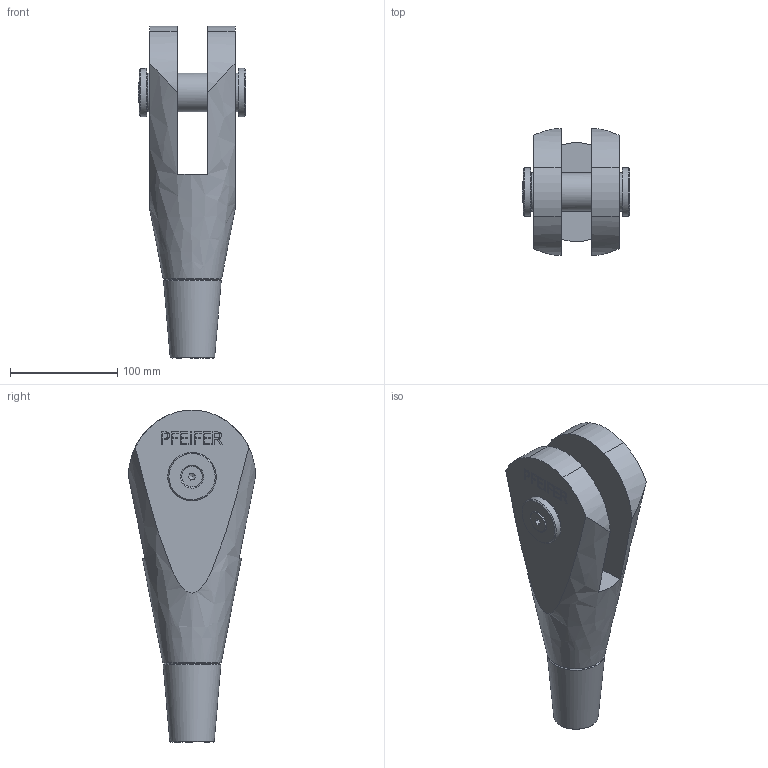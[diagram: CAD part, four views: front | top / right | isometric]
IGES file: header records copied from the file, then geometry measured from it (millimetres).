
Global section: file name: 520-036-GAK; native system: Autodesk Inventor 2016; preprocessor: unknown; author: Administrator; date: 20200625.075459; units: centimetre
Bounding box: 99.75 x 118.26 x 309 mm (x, y, z)
Volume: 1167295.3 mm3; surface area: 131055.9 mm2
Topology: 2 solids, 3 shells, 186 faces, 491 edges, 328 vertices
Faces by surface type: bspline 186
